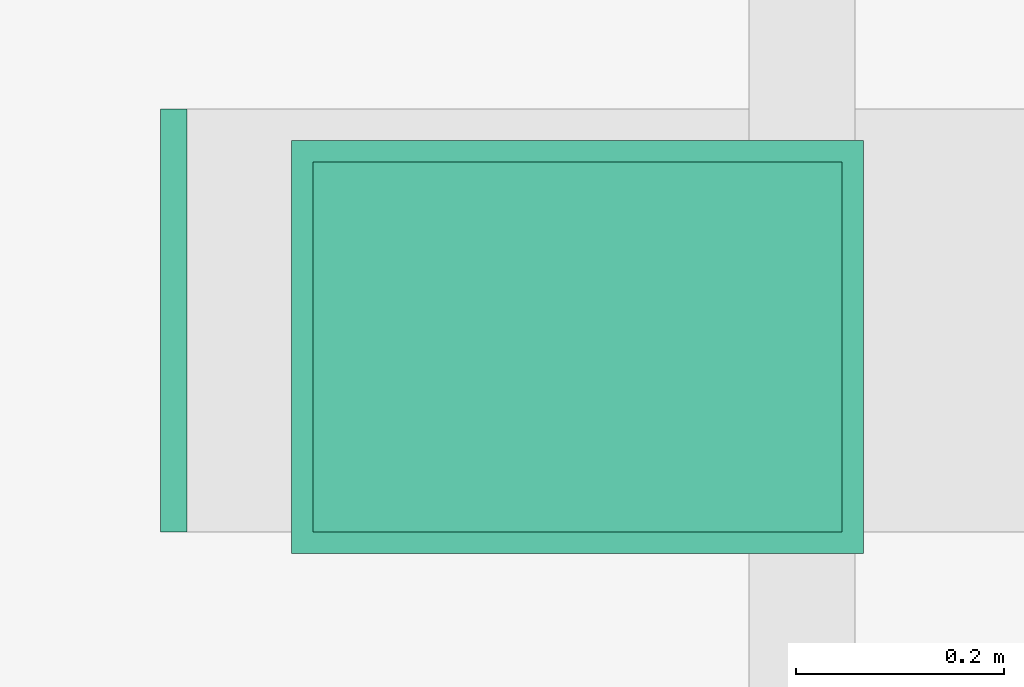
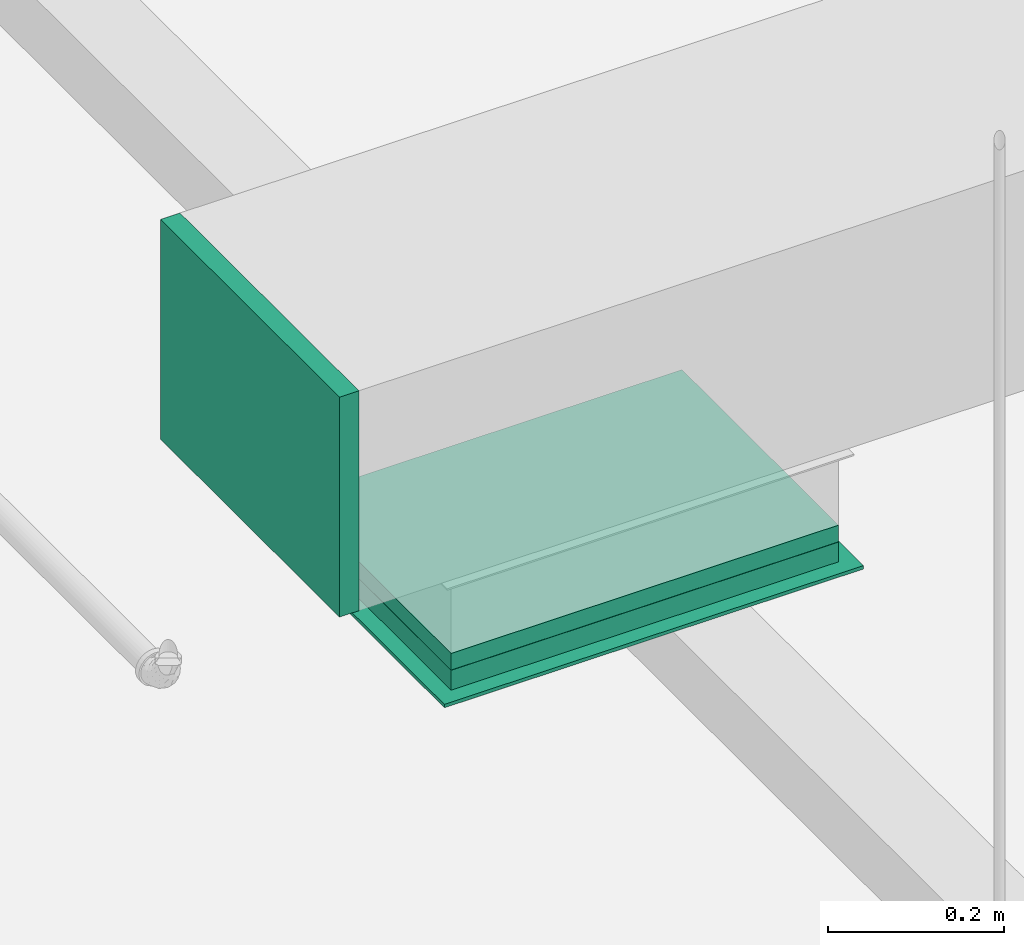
# One storey, part 35 of 108: 1 air terminal, 1 duct fitting, 1 duct segment.
"""IFC4 building model written with IfcOpenShell, lengths in feet."""

from ifc_helpers import new_model, entity, si_unit, converted_unit, derived_unit, direction, frame, frame_2d, origin, place, context, subcontext, project, spatial, rectangle, extrude, source, transform, mapped, type_object, type_shapes, element, save


model = new_model("IFC4")

# Units and contexts
model_context = context("Model", 3, precision=0.0001, world=origin(), true_north=direction((6.12303176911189e-17, 1.0)))
body_context = subcontext(model_context, "Body", "Model", "MODEL_VIEW")
ifc_project = project(units=[converted_unit("LENGTHUNIT", "FOOT", entity("IfcRatioMeasure", 0.3048), si_unit("LENGTHUNIT", "METRE"), dimensions=[1, 0, 0, 0, 0, 0, 0]), converted_unit("AREAUNIT", "SQUARE FOOT", entity("IfcRatioMeasure", 0.09290304), si_unit("AREAUNIT", "SQUARE_METRE"), dimensions=[2, 0, 0, 0, 0, 0, 0]), converted_unit("VOLUMEUNIT", "CUBIC FOOT", entity("IfcRatioMeasure", 0.028316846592), si_unit("VOLUMEUNIT", "CUBIC_METRE"), dimensions=[3, 0, 0, 0, 0, 0, 0]), converted_unit("PLANEANGLEUNIT", "DEGREE", entity("IfcRatioMeasure", 0.0174532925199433), si_unit("PLANEANGLEUNIT", "RADIAN"), dimensions=[0, 0, 0, 0, 0, 0, 0]), si_unit("MASSUNIT", "GRAM", prefix="KILO"), derived_unit("MASSDENSITYUNIT", [(si_unit("MASSUNIT", "GRAM", prefix="KILO"), 1), (si_unit("LENGTHUNIT", "METRE"), -3)]), si_unit("TIMEUNIT", "SECOND"), si_unit("FREQUENCYUNIT", "HERTZ"), si_unit("THERMODYNAMICTEMPERATUREUNIT", "DEGREE_CELSIUS"), derived_unit("THERMALTRANSMITTANCEUNIT", [(si_unit("MASSUNIT", "GRAM", prefix="KILO"), 1), (si_unit("THERMODYNAMICTEMPERATUREUNIT", "KELVIN"), -1), (si_unit("TIMEUNIT", "SECOND"), -3)]), derived_unit("VOLUMETRICFLOWRATEUNIT", [(si_unit("LENGTHUNIT", "METRE"), 3), (si_unit("TIMEUNIT", "SECOND"), -1)]), si_unit("ELECTRICCURRENTUNIT", "AMPERE"), si_unit("ELECTRICVOLTAGEUNIT", "VOLT"), si_unit("POWERUNIT", "WATT"), si_unit("FORCEUNIT", "NEWTON"), si_unit("ILLUMINANCEUNIT", "LUX"), si_unit("LUMINOUSFLUXUNIT", "LUMEN"), si_unit("LUMINOUSINTENSITYUNIT", "CANDELA"), derived_unit("USERDEFINED", [(si_unit("MASSUNIT", "GRAM", prefix="KILO"), -1), (si_unit("LENGTHUNIT", "METRE"), -2), (si_unit("TIMEUNIT", "SECOND"), 3), (si_unit("LUMINOUSFLUXUNIT", "LUMEN"), 1)]), derived_unit("LINEARVELOCITYUNIT", [(si_unit("LENGTHUNIT", "METRE"), 1), (si_unit("TIMEUNIT", "SECOND"), -1)]), si_unit("PRESSUREUNIT", "PASCAL"), derived_unit("USERDEFINED", [(si_unit("LENGTHUNIT", "METRE"), -2), (si_unit("MASSUNIT", "GRAM", prefix="KILO"), 1), (si_unit("TIMEUNIT", "SECOND"), -2)])], contexts=[model_context])

# Site, building, storey
site_placement = place(None, origin())
site = spatial("IfcSite", under=ifc_project, at=site_placement, Name="Default", CompositionType="ELEMENT")
building_placement = place(site_placement, origin())
building = spatial("IfcBuilding", under=site, at=building_placement, CompositionType="ELEMENT")
storey_placement = place(building_placement, frame((0.0, 0.0, 168.0)))
storey = spatial("IfcBuildingStorey", under=building, at=storey_placement, Name="Level 15", CompositionType="ELEMENT", Elevation=168.0)

# Duct segment
duct_segment_type = type_object("IfcDuctSegmentType", Name="Rectangular Duct:Square Throat Elbows / S&D", PredefinedType="NOTDEFINED")
duct_segment_placement = place(storey_placement, frame((-49.1119066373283, -11.8487742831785, 8.67447916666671)))
element("IfcDuctSegment", 1, at=duct_segment_placement, inside=storey, type_object=duct_segment_type, Name="Rectangular Duct:Square Throat Elbows / S&D", ObjectType="Rectangular Duct:Square Throat Elbows / S&D", PredefinedType="NOTDEFINED", context=body_context, shape_type="SweptSolid", body=[
    extrude(rectangle(XDim=1.66666666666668, YDim=1.16666666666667, at=frame_2d((-3.5527136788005e-15, 2.66453525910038e-15), x_axis=(1.0, 0.0))), frame((0.833333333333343, 0.583333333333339, 0.0), z_axis=(0.0, 0.0, 1.0), x_axis=(-1.0, 0.0, 0.0)), (0.0, 0.0, 1.0), 0.0755208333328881),
])

# Duct fitting
duct_fitting_type = type_object("IfcDuctFittingType", Name="Standard", PredefinedType="NOTDEFINED")
shared_shape_1 = source(origin(), body_context, "Body", "SweptSolid", [
    extrude(rectangle(XDim=1.33333333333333, YDim=0.0833333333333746, at=frame_2d((0.0, 5.48172618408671e-16), x_axis=(1.0, 0.0))), frame((0.0416666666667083, 0.0, -0.500000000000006), z_axis=(0.0, 0.0, 1.0), x_axis=(0.0, -1.0, 0.0)), (0.0, 0.0, 1.0), 1.0),
])
type_shapes(duct_fitting_type, [shared_shape_1])
duct_fitting_placement = place(storey_placement, frame((-49.5083537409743, -11.1821076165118, 9.583333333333), z_axis=(0.0, 0.0, 1.0), x_axis=(-1.0, 0.0, 0.0)))
element("IfcDuctFitting", 2, at=duct_fitting_placement, inside=storey, type_object=duct_fitting_type, Name="Rectangular Endcap:Standard", ObjectType="Rectangular Endcap:Standard", PredefinedType="NOTDEFINED", context=body_context, shape_type="MappedRepresentation", body=[
    mapped(shared_shape_1, transform((0.0, 0.0, 0.0), scale=1.0)),
])

# Air terminal
air_terminal_type = type_object("IfcAirTerminalType", Name="20x14", PredefinedType="NOTDEFINED")
cartesian_point_1 = entity("IfcCartesianPoint", [0.901041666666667, -0.015625, 0.651041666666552])
vertex_point_1 = entity("IfcVertexPoint", cartesian_point_1)
cartesian_point_2 = entity("IfcCartesianPoint", [-0.901041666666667, -0.015625, 0.651041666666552])
vertex_point_2 = entity("IfcVertexPoint", cartesian_point_2)
ifc_direction_1 = entity("IfcDirection", [-1.0, 0.0, 0.0])
edge_curve_1 = entity("IfcEdgeCurve", vertex_point_1, vertex_point_2, entity("IfcTrimmedCurve", entity("IfcLine", cartesian_point_1, entity("IfcVector", ifc_direction_1, 1.0)), [cartesian_point_1], [cartesian_point_2], True, "CARTESIAN"), True)
cartesian_point_3 = entity("IfcCartesianPoint", [-0.901041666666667, -0.015625, -0.651041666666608])
vertex_point_3 = entity("IfcVertexPoint", cartesian_point_3)
ifc_direction_2 = entity("IfcDirection", [0.0, 0.0, -1.0])
edge_curve_2 = entity("IfcEdgeCurve", vertex_point_2, vertex_point_3, entity("IfcTrimmedCurve", entity("IfcLine", cartesian_point_2, entity("IfcVector", ifc_direction_2, 1.0)), [cartesian_point_2], [cartesian_point_3], True, "CARTESIAN"), True)
cartesian_point_4 = entity("IfcCartesianPoint", [0.901041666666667, -0.015625, -0.651041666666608])
vertex_point_4 = entity("IfcVertexPoint", cartesian_point_4)
ifc_direction_3 = entity("IfcDirection", [1.0, 0.0, 0.0])
edge_curve_3 = entity("IfcEdgeCurve", vertex_point_3, vertex_point_4, entity("IfcTrimmedCurve", entity("IfcLine", cartesian_point_3, entity("IfcVector", ifc_direction_3, 1.0)), [cartesian_point_3], [cartesian_point_4], True, "CARTESIAN"), True)
ifc_direction_4 = entity("IfcDirection", [0.0, 0.0, 1.0])
edge_curve_4 = entity("IfcEdgeCurve", vertex_point_4, vertex_point_1, entity("IfcTrimmedCurve", entity("IfcLine", cartesian_point_4, entity("IfcVector", ifc_direction_4, 1.0)), [cartesian_point_4], [cartesian_point_1], True, "CARTESIAN"), True)
ifc_direction_5 = entity("IfcDirection", [0.0, -1.0, 0.0])
cartesian_point_5 = entity("IfcCartesianPoint", [0.901041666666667, 0.0, 0.651041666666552])
vertex_point_5 = entity("IfcVertexPoint", cartesian_point_5)
cartesian_point_6 = entity("IfcCartesianPoint", [0.901041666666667, 0.0, -0.651041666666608])
vertex_point_6 = entity("IfcVertexPoint", cartesian_point_6)
edge_curve_5 = entity("IfcEdgeCurve", vertex_point_5, vertex_point_6, entity("IfcTrimmedCurve", entity("IfcLine", cartesian_point_5, entity("IfcVector", ifc_direction_2, 1.0)), [cartesian_point_5], [cartesian_point_6], True, "CARTESIAN"), True)
cartesian_point_7 = entity("IfcCartesianPoint", [-0.901041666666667, 0.0, -0.651041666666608])
vertex_point_7 = entity("IfcVertexPoint", cartesian_point_7)
edge_curve_6 = entity("IfcEdgeCurve", vertex_point_6, vertex_point_7, entity("IfcTrimmedCurve", entity("IfcLine", cartesian_point_6, entity("IfcVector", ifc_direction_1, 1.0)), [cartesian_point_6], [cartesian_point_7], True, "CARTESIAN"), True)
cartesian_point_8 = entity("IfcCartesianPoint", [-0.901041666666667, 0.0, 0.651041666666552])
vertex_point_8 = entity("IfcVertexPoint", cartesian_point_8)
edge_curve_7 = entity("IfcEdgeCurve", vertex_point_7, vertex_point_8, entity("IfcTrimmedCurve", entity("IfcLine", cartesian_point_7, entity("IfcVector", ifc_direction_4, 1.0)), [cartesian_point_7], [cartesian_point_8], True, "CARTESIAN"), True)
edge_curve_8 = entity("IfcEdgeCurve", vertex_point_8, vertex_point_5, entity("IfcTrimmedCurve", entity("IfcLine", cartesian_point_8, entity("IfcVector", ifc_direction_3, 1.0)), [cartesian_point_8], [cartesian_point_5], True, "CARTESIAN"), True)
cartesian_point_9 = entity("IfcCartesianPoint", [-0.833333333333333, 0.0, 0.583333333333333])
vertex_point_9 = entity("IfcVertexPoint", cartesian_point_9)
cartesian_point_10 = entity("IfcCartesianPoint", [-0.833333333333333, 0.0, -0.583333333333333])
vertex_point_10 = entity("IfcVertexPoint", cartesian_point_10)
edge_curve_9 = entity("IfcEdgeCurve", vertex_point_9, vertex_point_10, entity("IfcTrimmedCurve", entity("IfcLine", cartesian_point_9, entity("IfcVector", ifc_direction_2, 1.0)), [cartesian_point_9], [cartesian_point_10], True, "CARTESIAN"), True)
cartesian_point_11 = entity("IfcCartesianPoint", [0.833333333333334, 0.0, -0.583333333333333])
vertex_point_11 = entity("IfcVertexPoint", cartesian_point_11)
edge_curve_10 = entity("IfcEdgeCurve", vertex_point_10, vertex_point_11, entity("IfcTrimmedCurve", entity("IfcLine", cartesian_point_10, entity("IfcVector", ifc_direction_3, 1.0)), [cartesian_point_10], [cartesian_point_11], True, "CARTESIAN"), True)
cartesian_point_12 = entity("IfcCartesianPoint", [0.833333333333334, 0.0, 0.583333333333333])
vertex_point_12 = entity("IfcVertexPoint", cartesian_point_12)
edge_curve_11 = entity("IfcEdgeCurve", vertex_point_11, vertex_point_12, entity("IfcTrimmedCurve", entity("IfcLine", cartesian_point_11, entity("IfcVector", ifc_direction_4, 1.0)), [cartesian_point_11], [cartesian_point_12], True, "CARTESIAN"), True)
edge_curve_12 = entity("IfcEdgeCurve", vertex_point_12, vertex_point_9, entity("IfcTrimmedCurve", entity("IfcLine", cartesian_point_12, entity("IfcVector", ifc_direction_1, 1.0)), [cartesian_point_12], [cartesian_point_9], True, "CARTESIAN"), True)
ifc_direction_6 = entity("IfcDirection", [0.0, 1.0, 0.0])
edge_curve_13 = entity("IfcEdgeCurve", vertex_point_1, vertex_point_5, entity("IfcTrimmedCurve", entity("IfcLine", cartesian_point_1, entity("IfcVector", ifc_direction_6, 1.0)), [cartesian_point_1], [cartesian_point_5], True, "CARTESIAN"), True)
edge_curve_14 = entity("IfcEdgeCurve", vertex_point_8, vertex_point_2, entity("IfcTrimmedCurve", entity("IfcLine", cartesian_point_2, entity("IfcVector", ifc_direction_5, 1.0)), [cartesian_point_8], [cartesian_point_2], True, "CARTESIAN"), True)
edge_curve_15 = entity("IfcEdgeCurve", vertex_point_7, vertex_point_3, entity("IfcTrimmedCurve", entity("IfcLine", cartesian_point_3, entity("IfcVector", ifc_direction_5, 1.0)), [cartesian_point_7], [cartesian_point_3], True, "CARTESIAN"), True)
edge_curve_16 = entity("IfcEdgeCurve", vertex_point_6, vertex_point_4, entity("IfcTrimmedCurve", entity("IfcLine", cartesian_point_4, entity("IfcVector", ifc_direction_5, 1.0)), [cartesian_point_6], [cartesian_point_4], True, "CARTESIAN"), True)
cartesian_point_13 = entity("IfcCartesianPoint", [-0.833333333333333, 0.08984375, 0.583333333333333])
vertex_point_13 = entity("IfcVertexPoint", cartesian_point_13)
cartesian_point_14 = entity("IfcCartesianPoint", [0.833333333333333, 0.08984375, 0.583333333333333])
vertex_point_14 = entity("IfcVertexPoint", cartesian_point_14)
edge_curve_17 = entity("IfcEdgeCurve", vertex_point_13, vertex_point_14, entity("IfcTrimmedCurve", entity("IfcLine", cartesian_point_13, entity("IfcVector", ifc_direction_3, 1.0)), [cartesian_point_13], [cartesian_point_14], True, "CARTESIAN"), True)
cartesian_point_15 = entity("IfcCartesianPoint", [0.833333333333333, 0.08984375, -0.583333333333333])
vertex_point_15 = entity("IfcVertexPoint", cartesian_point_15)
edge_curve_18 = entity("IfcEdgeCurve", vertex_point_14, vertex_point_15, entity("IfcTrimmedCurve", entity("IfcLine", cartesian_point_14, entity("IfcVector", ifc_direction_2, 1.0)), [cartesian_point_14], [cartesian_point_15], True, "CARTESIAN"), True)
cartesian_point_16 = entity("IfcCartesianPoint", [-0.833333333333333, 0.08984375, -0.583333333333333])
vertex_point_16 = entity("IfcVertexPoint", cartesian_point_16)
edge_curve_19 = entity("IfcEdgeCurve", vertex_point_15, vertex_point_16, entity("IfcTrimmedCurve", entity("IfcLine", cartesian_point_15, entity("IfcVector", ifc_direction_1, 1.0)), [cartesian_point_15], [cartesian_point_16], True, "CARTESIAN"), True)
edge_curve_20 = entity("IfcEdgeCurve", vertex_point_16, vertex_point_13, entity("IfcTrimmedCurve", entity("IfcLine", cartesian_point_16, entity("IfcVector", ifc_direction_4, 1.0)), [cartesian_point_16], [cartesian_point_13], True, "CARTESIAN"), True)
cartesian_point_17 = entity("IfcCartesianPoint", [-0.8125, 0.08984375, 0.562500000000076])
vertex_point_17 = entity("IfcVertexPoint", cartesian_point_17)
cartesian_point_18 = entity("IfcCartesianPoint", [-0.8125, 0.08984375, -0.562500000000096])
vertex_point_18 = entity("IfcVertexPoint", cartesian_point_18)
edge_curve_21 = entity("IfcEdgeCurve", vertex_point_17, vertex_point_18, entity("IfcTrimmedCurve", entity("IfcLine", cartesian_point_17, entity("IfcVector", ifc_direction_2, 1.0)), [cartesian_point_17], [cartesian_point_18], True, "CARTESIAN"), True)
cartesian_point_19 = entity("IfcCartesianPoint", [0.8125, 0.08984375, -0.562500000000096])
vertex_point_19 = entity("IfcVertexPoint", cartesian_point_19)
edge_curve_22 = entity("IfcEdgeCurve", vertex_point_18, vertex_point_19, entity("IfcTrimmedCurve", entity("IfcLine", cartesian_point_18, entity("IfcVector", ifc_direction_3, 1.0)), [cartesian_point_18], [cartesian_point_19], True, "CARTESIAN"), True)
cartesian_point_20 = entity("IfcCartesianPoint", [0.8125, 0.08984375, 0.562500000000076])
vertex_point_20 = entity("IfcVertexPoint", cartesian_point_20)
edge_curve_23 = entity("IfcEdgeCurve", vertex_point_19, vertex_point_20, entity("IfcTrimmedCurve", entity("IfcLine", cartesian_point_19, entity("IfcVector", ifc_direction_4, 1.0)), [cartesian_point_19], [cartesian_point_20], True, "CARTESIAN"), True)
edge_curve_24 = entity("IfcEdgeCurve", vertex_point_20, vertex_point_17, entity("IfcTrimmedCurve", entity("IfcLine", cartesian_point_20, entity("IfcVector", ifc_direction_1, 1.0)), [cartesian_point_20], [cartesian_point_17], True, "CARTESIAN"), True)
edge_curve_25 = entity("IfcEdgeCurve", vertex_point_16, vertex_point_10, entity("IfcTrimmedCurve", entity("IfcLine", cartesian_point_10, entity("IfcVector", ifc_direction_5, 1.0)), [cartesian_point_16], [cartesian_point_10], True, "CARTESIAN"), True)
edge_curve_26 = entity("IfcEdgeCurve", vertex_point_9, vertex_point_13, entity("IfcTrimmedCurve", entity("IfcLine", cartesian_point_9, entity("IfcVector", ifc_direction_6, 1.0)), [cartesian_point_9], [cartesian_point_13], True, "CARTESIAN"), True)
edge_curve_27 = entity("IfcEdgeCurve", vertex_point_15, vertex_point_11, entity("IfcTrimmedCurve", entity("IfcLine", cartesian_point_11, entity("IfcVector", ifc_direction_5, 1.0)), [cartesian_point_15], [cartesian_point_11], True, "CARTESIAN"), True)
edge_curve_28 = entity("IfcEdgeCurve", vertex_point_14, vertex_point_12, entity("IfcTrimmedCurve", entity("IfcLine", cartesian_point_12, entity("IfcVector", ifc_direction_5, 1.0)), [cartesian_point_14], [cartesian_point_12], True, "CARTESIAN"), True)
cartesian_point_21 = entity("IfcCartesianPoint", [-0.8125, 0.0911458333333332, 0.562500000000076])
vertex_point_21 = entity("IfcVertexPoint", cartesian_point_21)
cartesian_point_22 = entity("IfcCartesianPoint", [0.8125, 0.0911458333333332, 0.562500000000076])
vertex_point_22 = entity("IfcVertexPoint", cartesian_point_22)
edge_curve_29 = entity("IfcEdgeCurve", vertex_point_21, vertex_point_22, entity("IfcTrimmedCurve", entity("IfcLine", cartesian_point_21, entity("IfcVector", ifc_direction_3, 1.0)), [cartesian_point_21], [cartesian_point_22], True, "CARTESIAN"), True)
cartesian_point_23 = entity("IfcCartesianPoint", [0.8125, 0.0911458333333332, -0.562500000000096])
vertex_point_23 = entity("IfcVertexPoint", cartesian_point_23)
edge_curve_30 = entity("IfcEdgeCurve", vertex_point_22, vertex_point_23, entity("IfcTrimmedCurve", entity("IfcLine", cartesian_point_22, entity("IfcVector", ifc_direction_2, 1.0)), [cartesian_point_22], [cartesian_point_23], True, "CARTESIAN"), True)
cartesian_point_24 = entity("IfcCartesianPoint", [-0.8125, 0.0911458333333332, -0.562500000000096])
vertex_point_24 = entity("IfcVertexPoint", cartesian_point_24)
edge_curve_31 = entity("IfcEdgeCurve", vertex_point_23, vertex_point_24, entity("IfcTrimmedCurve", entity("IfcLine", cartesian_point_23, entity("IfcVector", ifc_direction_1, 1.0)), [cartesian_point_23], [cartesian_point_24], True, "CARTESIAN"), True)
edge_curve_32 = entity("IfcEdgeCurve", vertex_point_24, vertex_point_21, entity("IfcTrimmedCurve", entity("IfcLine", cartesian_point_24, entity("IfcVector", ifc_direction_4, 1.0)), [cartesian_point_24], [cartesian_point_21], True, "CARTESIAN"), True)
edge_curve_33 = entity("IfcEdgeCurve", vertex_point_24, vertex_point_18, entity("IfcTrimmedCurve", entity("IfcLine", cartesian_point_18, entity("IfcVector", ifc_direction_5, 1.0)), [cartesian_point_24], [cartesian_point_18], True, "CARTESIAN"), True)
edge_curve_34 = entity("IfcEdgeCurve", vertex_point_17, vertex_point_21, entity("IfcTrimmedCurve", entity("IfcLine", cartesian_point_17, entity("IfcVector", ifc_direction_6, 1.0)), [cartesian_point_17], [cartesian_point_21], True, "CARTESIAN"), True)
edge_curve_35 = entity("IfcEdgeCurve", vertex_point_23, vertex_point_19, entity("IfcTrimmedCurve", entity("IfcLine", cartesian_point_19, entity("IfcVector", ifc_direction_5, 1.0)), [cartesian_point_23], [cartesian_point_19], True, "CARTESIAN"), True)
edge_curve_36 = entity("IfcEdgeCurve", vertex_point_22, vertex_point_20, entity("IfcTrimmedCurve", entity("IfcLine", cartesian_point_20, entity("IfcVector", ifc_direction_5, 1.0)), [cartesian_point_22], [cartesian_point_20], True, "CARTESIAN"), True)
shared_shape_2 = source(origin(), body_context, "Body", "AdvancedBrep", [
    entity("IfcAdvancedBrep", entity("IfcClosedShell", [entity("IfcAdvancedFace", [entity("IfcFaceOuterBound", entity("IfcEdgeLoop", [entity("IfcOrientedEdge", None, None, edge_curve_1, True), entity("IfcOrientedEdge", None, None, edge_curve_2, True), entity("IfcOrientedEdge", None, None, edge_curve_3, True), entity("IfcOrientedEdge", None, None, edge_curve_4, True)]), True)], entity("IfcPlane", entity("IfcAxis2Placement3D", cartesian_point_2, ifc_direction_5, ifc_direction_1)), True), entity("IfcAdvancedFace", [entity("IfcFaceOuterBound", entity("IfcEdgeLoop", [entity("IfcOrientedEdge", None, None, edge_curve_5, True), entity("IfcOrientedEdge", None, None, edge_curve_6, True), entity("IfcOrientedEdge", None, None, edge_curve_7, True), entity("IfcOrientedEdge", None, None, edge_curve_8, True)]), True), entity("IfcFaceBound", entity("IfcEdgeLoop", [entity("IfcOrientedEdge", None, None, edge_curve_9, True), entity("IfcOrientedEdge", None, None, edge_curve_10, True), entity("IfcOrientedEdge", None, None, edge_curve_11, True), entity("IfcOrientedEdge", None, None, edge_curve_12, True)]), False)], entity("IfcPlane", entity("IfcAxis2Placement3D", cartesian_point_8, ifc_direction_6, ifc_direction_3)), True), entity("IfcAdvancedFace", [entity("IfcFaceOuterBound", entity("IfcEdgeLoop", [entity("IfcOrientedEdge", None, None, edge_curve_1, False), entity("IfcOrientedEdge", None, None, edge_curve_13, True), entity("IfcOrientedEdge", None, None, edge_curve_8, False), entity("IfcOrientedEdge", None, None, edge_curve_14, True)]), True)], entity("IfcPlane", entity("IfcAxis2Placement3D", cartesian_point_1, ifc_direction_4, ifc_direction_6)), True), entity("IfcAdvancedFace", [entity("IfcFaceOuterBound", entity("IfcEdgeLoop", [entity("IfcOrientedEdge", None, None, edge_curve_2, False), entity("IfcOrientedEdge", None, None, edge_curve_14, False), entity("IfcOrientedEdge", None, None, edge_curve_7, False), entity("IfcOrientedEdge", None, None, edge_curve_15, True)]), True)], entity("IfcPlane", entity("IfcAxis2Placement3D", cartesian_point_2, ifc_direction_1, ifc_direction_6)), True), entity("IfcAdvancedFace", [entity("IfcFaceOuterBound", entity("IfcEdgeLoop", [entity("IfcOrientedEdge", None, None, edge_curve_3, False), entity("IfcOrientedEdge", None, None, edge_curve_15, False), entity("IfcOrientedEdge", None, None, edge_curve_6, False), entity("IfcOrientedEdge", None, None, edge_curve_16, True)]), True)], entity("IfcPlane", entity("IfcAxis2Placement3D", cartesian_point_3, ifc_direction_2, ifc_direction_6)), True), entity("IfcAdvancedFace", [entity("IfcFaceOuterBound", entity("IfcEdgeLoop", [entity("IfcOrientedEdge", None, None, edge_curve_4, False), entity("IfcOrientedEdge", None, None, edge_curve_16, False), entity("IfcOrientedEdge", None, None, edge_curve_5, False), entity("IfcOrientedEdge", None, None, edge_curve_13, False)]), True)], entity("IfcPlane", entity("IfcAxis2Placement3D", cartesian_point_4, ifc_direction_3, ifc_direction_6)), True), entity("IfcAdvancedFace", [entity("IfcFaceOuterBound", entity("IfcEdgeLoop", [entity("IfcOrientedEdge", None, None, edge_curve_17, True), entity("IfcOrientedEdge", None, None, edge_curve_18, True), entity("IfcOrientedEdge", None, None, edge_curve_19, True), entity("IfcOrientedEdge", None, None, edge_curve_20, True)]), True), entity("IfcFaceBound", entity("IfcEdgeLoop", [entity("IfcOrientedEdge", None, None, edge_curve_21, True), entity("IfcOrientedEdge", None, None, edge_curve_22, True), entity("IfcOrientedEdge", None, None, edge_curve_23, True), entity("IfcOrientedEdge", None, None, edge_curve_24, True)]), False)], entity("IfcPlane", entity("IfcAxis2Placement3D", cartesian_point_13, ifc_direction_6, ifc_direction_4)), True), entity("IfcAdvancedFace", [entity("IfcFaceOuterBound", entity("IfcEdgeLoop", [entity("IfcOrientedEdge", None, None, edge_curve_20, False), entity("IfcOrientedEdge", None, None, edge_curve_25, True), entity("IfcOrientedEdge", None, None, edge_curve_9, False), entity("IfcOrientedEdge", None, None, edge_curve_26, True)]), True)], entity("IfcPlane", entity("IfcAxis2Placement3D", cartesian_point_9, ifc_direction_1, ifc_direction_6)), True), entity("IfcAdvancedFace", [entity("IfcFaceOuterBound", entity("IfcEdgeLoop", [entity("IfcOrientedEdge", None, None, edge_curve_19, False), entity("IfcOrientedEdge", None, None, edge_curve_27, True), entity("IfcOrientedEdge", None, None, edge_curve_10, False), entity("IfcOrientedEdge", None, None, edge_curve_25, False)]), True)], entity("IfcPlane", entity("IfcAxis2Placement3D", cartesian_point_10, ifc_direction_2, ifc_direction_6)), True), entity("IfcAdvancedFace", [entity("IfcFaceOuterBound", entity("IfcEdgeLoop", [entity("IfcOrientedEdge", None, None, edge_curve_18, False), entity("IfcOrientedEdge", None, None, edge_curve_28, True), entity("IfcOrientedEdge", None, None, edge_curve_11, False), entity("IfcOrientedEdge", None, None, edge_curve_27, False)]), True)], entity("IfcPlane", entity("IfcAxis2Placement3D", cartesian_point_11, ifc_direction_3, ifc_direction_6)), True), entity("IfcAdvancedFace", [entity("IfcFaceOuterBound", entity("IfcEdgeLoop", [entity("IfcOrientedEdge", None, None, edge_curve_17, False), entity("IfcOrientedEdge", None, None, edge_curve_26, False), entity("IfcOrientedEdge", None, None, edge_curve_12, False), entity("IfcOrientedEdge", None, None, edge_curve_28, False)]), True)], entity("IfcPlane", entity("IfcAxis2Placement3D", cartesian_point_12, ifc_direction_4, ifc_direction_6)), True), entity("IfcAdvancedFace", [entity("IfcFaceOuterBound", entity("IfcEdgeLoop", [entity("IfcOrientedEdge", None, None, edge_curve_29, True), entity("IfcOrientedEdge", None, None, edge_curve_30, True), entity("IfcOrientedEdge", None, None, edge_curve_31, True), entity("IfcOrientedEdge", None, None, edge_curve_32, True)]), True)], entity("IfcPlane", entity("IfcAxis2Placement3D", cartesian_point_21, ifc_direction_6, ifc_direction_4)), True), entity("IfcAdvancedFace", [entity("IfcFaceOuterBound", entity("IfcEdgeLoop", [entity("IfcOrientedEdge", None, None, edge_curve_32, False), entity("IfcOrientedEdge", None, None, edge_curve_33, True), entity("IfcOrientedEdge", None, None, edge_curve_21, False), entity("IfcOrientedEdge", None, None, edge_curve_34, True)]), True)], entity("IfcPlane", entity("IfcAxis2Placement3D", cartesian_point_17, ifc_direction_1, ifc_direction_6)), True), entity("IfcAdvancedFace", [entity("IfcFaceOuterBound", entity("IfcEdgeLoop", [entity("IfcOrientedEdge", None, None, edge_curve_31, False), entity("IfcOrientedEdge", None, None, edge_curve_35, True), entity("IfcOrientedEdge", None, None, edge_curve_22, False), entity("IfcOrientedEdge", None, None, edge_curve_33, False)]), True)], entity("IfcPlane", entity("IfcAxis2Placement3D", cartesian_point_18, ifc_direction_2, ifc_direction_6)), True), entity("IfcAdvancedFace", [entity("IfcFaceOuterBound", entity("IfcEdgeLoop", [entity("IfcOrientedEdge", None, None, edge_curve_30, False), entity("IfcOrientedEdge", None, None, edge_curve_36, True), entity("IfcOrientedEdge", None, None, edge_curve_23, False), entity("IfcOrientedEdge", None, None, edge_curve_35, False)]), True)], entity("IfcPlane", entity("IfcAxis2Placement3D", cartesian_point_19, ifc_direction_3, ifc_direction_6)), True), entity("IfcAdvancedFace", [entity("IfcFaceOuterBound", entity("IfcEdgeLoop", [entity("IfcOrientedEdge", None, None, edge_curve_29, False), entity("IfcOrientedEdge", None, None, edge_curve_34, False), entity("IfcOrientedEdge", None, None, edge_curve_24, False), entity("IfcOrientedEdge", None, None, edge_curve_36, False)]), True)], entity("IfcPlane", entity("IfcAxis2Placement3D", cartesian_point_20, ifc_direction_4, ifc_direction_6)), True)])),
])
type_shapes(air_terminal_type, [shared_shape_2])
air_terminal_placement = place(storey_placement, frame((-48.278573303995, -11.2654409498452, 8.58333333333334), z_axis=(0.0, -1.0, 0.0), x_axis=(1.0, 0.0, 0.0)))
element("IfcAirTerminal", 3, at=air_terminal_placement, inside=storey, type_object=air_terminal_type, Name="Supply Diffuser - Sidewall:20x14", ObjectType="Supply Diffuser - Sidewall:20x14", PredefinedType="NOTDEFINED", context=body_context, shape_type="MappedRepresentation", body=[
    mapped(shared_shape_2, transform((0.0, 0.0, 0.0), scale=1.0)),
])

save(model, "model.ifc")
